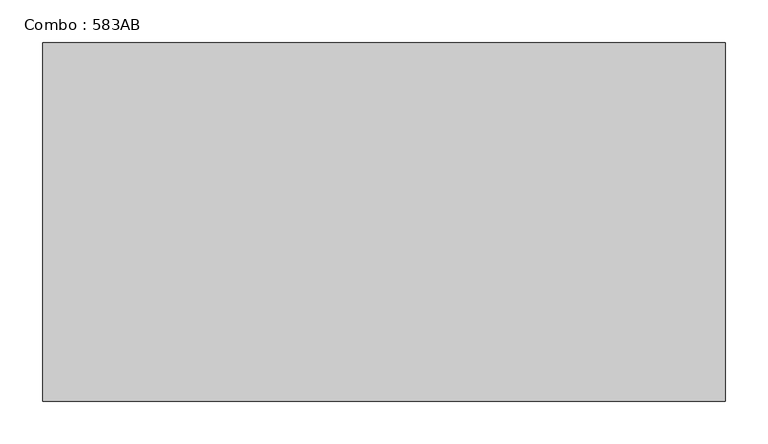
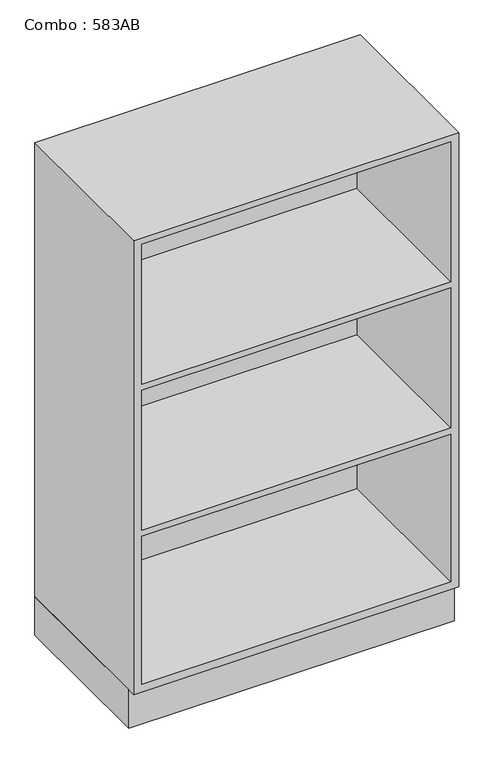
"""IFC4 building model written with IfcOpenShell, lengths in millimetres: furniture geometry, Combo : 583AB."""

from ifc_helpers import new_model, si_unit, origin, origin_with_axes, place, context, project, spatial, polyline, outline, extrude, faceted_brep, source, transform, mapped, element, save


def combo_583ab_46ee31a1(model_context):
    return source(origin(), model_context, "Body", "SolidModel", [
        extrude(outline(polyline([(-400.0, -400.0), (-400.0, 0.0), (400.0, 0.0), (400.0, -400.0), (-400.0, -400.0)])), origin_with_axes(), (0.0, 0.0, 1.0), 100.0),
        faceted_brep([(400.0, 0.0, 1280.0), (-400.0, 0.0, 1280.0), (-400.0, -420.0, 1280.0), (400.0, -420.0, 1280.0), (-400.0, 0.0, 100.0), (400.0, 0.0, 100.0), (400.0, -420.0, 100.0), (-400.0, -420.0, 100.0), (380.0, -420.0, 504.0), (380.0, -420.0, 120.0), (-380.0, -420.0, 120.0), (-380.0, -420.0, 504.0), (380.0, -420.0, 884.0), (380.0, -420.0, 520.0), (-380.0, -420.0, 520.0), (-380.0, -420.0, 884.0), (380.0, -420.0, 1264.0), (380.0, -420.0, 900.0), (-380.0, -420.0, 900.0), (-380.0, -420.0, 1264.0), (380.0, -20.0, 120.0), (380.0, -20.0, 504.0), (-380.0, -20.0, 504.0), (-380.0, -20.0, 120.0), (380.0, -20.0, 520.0), (380.0, -20.0, 884.0), (-380.0, -20.0, 884.0), (-380.0, -20.0, 520.0), (380.0, -20.0, 900.0), (380.0, -20.0, 1264.0), (-380.0, -20.0, 1264.0), (-380.0, -20.0, 900.0)], [[[0, 1, 2, 3]], [[4, 5, 6, 7]], [[1, 0, 5, 4]], [[2, 1, 4, 7]], [[3, 2, 7, 6], [8, 9, 10, 11], [12, 13, 14, 15], [16, 17, 18, 19]], [[0, 3, 6, 5]], [[20, 21, 22, 23]], [[21, 20, 9, 8]], [[22, 21, 8, 11]], [[23, 22, 11, 10]], [[20, 23, 10, 9]], [[24, 25, 26, 27]], [[25, 24, 13, 12]], [[26, 25, 12, 15]], [[27, 26, 15, 14]], [[24, 27, 14, 13]], [[28, 29, 30, 31]], [[29, 28, 17, 16]], [[30, 29, 16, 19]], [[31, 30, 19, 18]], [[28, 31, 18, 17]]]),
    ])


if __name__ == "__main__":
    model = new_model("IFC4")
    model_context = context("Model", 3, world=origin())
    ifc_project = project(units=[si_unit("LENGTHUNIT", "METRE", prefix="MILLI")], contexts=[model_context])
    site = spatial("IfcSite", under=ifc_project)
    building = spatial("IfcBuilding", under=site)
    placement = place(None, origin())
    combo_583ab_shape = combo_583ab_46ee31a1(model_context)
    element("IfcFurniture", 1, ObjectType="Combo : 583AB", at=placement, inside=building, context=model_context, shape_type="MappedRepresentation", body=[
        mapped(combo_583ab_shape, transform((0.0, 0.0, 0.0), x_axis=(1.0, 0.0, 0.0), y_axis=(0.0, 1.0, 0.0), z_axis=(0.0, 0.0, 1.0))),
    ])
    save(model, "model.ifc")
